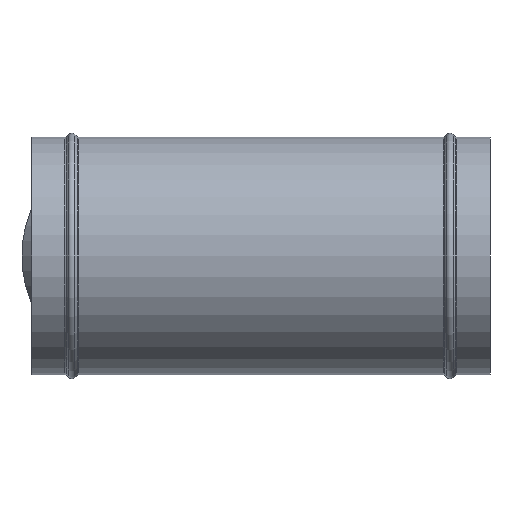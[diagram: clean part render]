
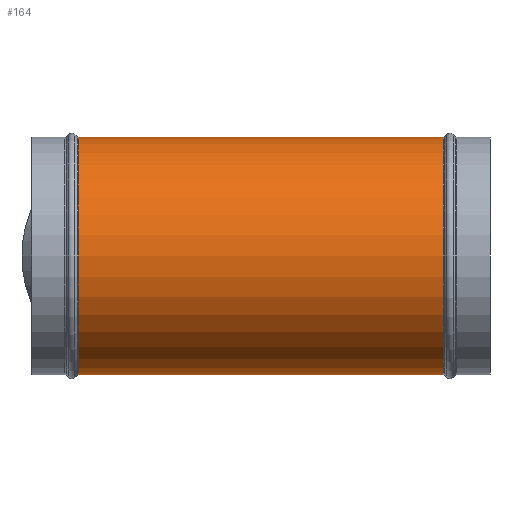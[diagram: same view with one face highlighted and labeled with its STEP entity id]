
A CAD part, front view. The second image highlights one B-rep face of the part: STEP entity #164.
In plain terms, the highlighted cylindrical face has radius 102 mm (diameter 204 mm), a full revolution.
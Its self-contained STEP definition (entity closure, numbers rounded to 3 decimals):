
#164=ADVANCED_FACE('',(#254,#255,#256),#180,.T.);
#180=CYLINDRICAL_SURFACE('',#649,102.);
#184=B_SPLINE_CURVE_WITH_KNOTS('',3,(#908,#909,#910,#911,#912,#913,#914,
#915,#916,#917,#918,#919,#920,#921,#922,#923,#924,#925,#926,#927,#928,#929,
#930,#931,#932,#933,#934,#935,#936,#937,#938,#939,#940,#941,#942,#943,#944,
#945,#946,#947,#948,#949,#950,#951,#952,#953,#954,#955,#956,#957,#958,#959,
#960,#961,#962,#963,#964,#965,#966,#967,#968,#969,#970,#971,#972,#973,#974,
#975,#976,#977),.UNSPECIFIED.,.T.,.F.,(2,2,2,2,2,2,2,2,2,2,2,2,2,2,2,2,2,
2,2,2,2,2,2,2,2,2,2,2,2,2,2,2,2,2,2,2,2),(-0.016,0.,0.016,
0.031,0.062,0.094,0.125,0.188,0.25,
0.281,0.313,0.344,0.359,0.375,0.406,0.438,0.469,0.5,0.531,
0.563,0.578,0.594,0.625,0.641,0.656,0.672,0.688,0.719,0.75,
0.813,0.875,0.906,0.938,0.969,0.984,1.,1.016),.UNSPECIFIED.);
#254=FACE_BOUND('',#342,.T.);
#255=FACE_BOUND('',#343,.T.);
#256=FACE_BOUND('',#344,.T.);
#342=EDGE_LOOP('',(#430));
#343=EDGE_LOOP('',(#431));
#344=EDGE_LOOP('',(#432));
#430=ORIENTED_EDGE('',*,*,#495,.T.);
#431=ORIENTED_EDGE('',*,*,#528,.T.);
#432=ORIENTED_EDGE('',*,*,#529,.F.);
#451=VERTEX_POINT('',#978);
#484=VERTEX_POINT('',#1076);
#485=VERTEX_POINT('',#1079);
#495=EDGE_CURVE('',#451,#451,#184,.T.);
#528=EDGE_CURVE('',#484,#484,#570,.T.);
#529=EDGE_CURVE('',#485,#485,#571,.T.);
#570=CIRCLE('',#646,102.);
#571=CIRCLE('',#648,102.);
#646=AXIS2_PLACEMENT_3D('',#1075,#799,#800);
#648=AXIS2_PLACEMENT_3D('',#1078,#803,#804);
#649=AXIS2_PLACEMENT_3D('',#1080,#805,#806);
#799=DIRECTION('',(1.,0.,0.));
#800=DIRECTION('',(0.,0.,-1.));
#803=DIRECTION('',(1.,0.,0.));
#804=DIRECTION('',(0.,0.,-1.));
#805=DIRECTION('',(1.,0.,0.));
#806=DIRECTION('',(0.,0.,-1.));
#908=CARTESIAN_POINT('',(-291.687,102.,3.243));
#909=CARTESIAN_POINT('',(-291.687,102.,-3.243));
#910=CARTESIAN_POINT('',(-291.244,101.846,-6.4));
#911=CARTESIAN_POINT('',(-289.579,101.271,-12.565));
#912=CARTESIAN_POINT('',(-288.353,100.847,-15.551));
#913=CARTESIAN_POINT('',(-283.919,99.324,-23.89));
#914=CARTESIAN_POINT('',(-279.884,97.946,-28.834));
#915=CARTESIAN_POINT('',(-271.035,94.976,-37.477));
#916=CARTESIAN_POINT('',(-266.117,93.347,-41.289));
#917=CARTESIAN_POINT('',(-255.848,90.022,-48.109));
#918=CARTESIAN_POINT('',(-250.519,88.332,-51.103));
#919=CARTESIAN_POINT('',(-234.106,83.288,-59.227));
#920=CARTESIAN_POINT('',(-222.53,79.927,-63.534));
#921=CARTESIAN_POINT('',(-198.812,73.914,-70.439));
#922=CARTESIAN_POINT('',(-186.715,71.24,-73.04));
#923=CARTESIAN_POINT('',(-168.023,68.555,-75.536));
#924=CARTESIAN_POINT('',(-161.652,67.886,-76.129));
#925=CARTESIAN_POINT('',(-148.907,67.329,-76.622));
#926=CARTESIAN_POINT('',(-142.514,67.439,-76.53));
#927=CARTESIAN_POINT('',(-129.814,68.833,-75.279));
#928=CARTESIAN_POINT('',(-123.722,70.105,-74.138));
#929=CARTESIAN_POINT('',(-115.066,72.942,-71.311));
#930=CARTESIAN_POINT('',(-112.236,74.054,-70.165));
#931=CARTESIAN_POINT('',(-106.942,76.47,-67.524));
#932=CARTESIAN_POINT('',(-104.463,77.775,-66.028));
#933=CARTESIAN_POINT('',(-97.482,81.869,-60.994));
#934=CARTESIAN_POINT('',(-93.419,84.855,-56.859));
#935=CARTESIAN_POINT('',(-86.68,90.396,-47.559));
#936=CARTESIAN_POINT('',(-83.911,93.013,-42.289));
#937=CARTESIAN_POINT('',(-79.581,97.321,-31.12));
#938=CARTESIAN_POINT('',(-77.968,99.063,-25.104));
#939=CARTESIAN_POINT('',(-75.838,101.398,-12.729));
#940=CARTESIAN_POINT('',(-75.313,101.999,-6.429));
#941=CARTESIAN_POINT('',(-75.312,102.001,6.402));
#942=CARTESIAN_POINT('',(-75.842,101.393,12.759));
#943=CARTESIAN_POINT('',(-77.964,99.067,25.08));
#944=CARTESIAN_POINT('',(-79.585,97.316,31.131));
#945=CARTESIAN_POINT('',(-82.825,94.093,39.489));
#946=CARTESIAN_POINT('',(-84.043,92.917,42.175));
#947=CARTESIAN_POINT('',(-86.793,90.393,47.344));
#948=CARTESIAN_POINT('',(-88.339,89.033,49.844));
#949=CARTESIAN_POINT('',(-93.398,84.871,56.836));
#950=CARTESIAN_POINT('',(-97.331,81.968,60.864));
#951=CARTESIAN_POINT('',(-104.358,77.832,65.962));
#952=CARTESIAN_POINT('',(-106.884,76.5,67.49));
#953=CARTESIAN_POINT('',(-112.144,74.093,70.125));
#954=CARTESIAN_POINT('',(-114.901,73.003,71.248));
#955=CARTESIAN_POINT('',(-120.67,71.099,73.149));
#956=CARTESIAN_POINT('',(-123.71,70.279,73.93));
#957=CARTESIAN_POINT('',(-129.861,68.976,75.147));
#958=CARTESIAN_POINT('',(-132.974,68.487,75.589));
#959=CARTESIAN_POINT('',(-142.409,67.448,76.522));
#960=CARTESIAN_POINT('',(-148.882,67.33,76.621));
#961=CARTESIAN_POINT('',(-161.603,67.882,76.132));
#962=CARTESIAN_POINT('',(-167.885,68.539,75.551));
#963=CARTESIAN_POINT('',(-186.576,71.213,73.066));
#964=CARTESIAN_POINT('',(-198.871,73.929,70.421));
#965=CARTESIAN_POINT('',(-222.45,79.907,63.558));
#966=CARTESIAN_POINT('',(-233.847,83.212,59.331));
#967=CARTESIAN_POINT('',(-250.25,88.248,51.248));
#968=CARTESIAN_POINT('',(-255.601,89.943,48.258));
#969=CARTESIAN_POINT('',(-265.969,93.298,41.401));
#970=CARTESIAN_POINT('',(-270.882,94.925,37.612));
#971=CARTESIAN_POINT('',(-279.856,97.937,28.875));
#972=CARTESIAN_POINT('',(-283.82,99.29,24.04));
#973=CARTESIAN_POINT('',(-288.315,100.834,15.639));
#974=CARTESIAN_POINT('',(-289.547,101.259,12.654));
#975=CARTESIAN_POINT('',(-291.227,101.84,6.492));
#976=CARTESIAN_POINT('',(-291.687,102.,3.243));
#977=CARTESIAN_POINT('',(-291.687,102.,-3.243));
#978=CARTESIAN_POINT('',(-291.687,102.,0.));
#1075=CARTESIAN_POINT('',(-353.722,0.,0.));
#1076=CARTESIAN_POINT('',(-353.722,0.,-102.));
#1078=CARTESIAN_POINT('',(-40.278,0.,0.));
#1079=CARTESIAN_POINT('',(-40.278,0.,-102.));
#1080=CARTESIAN_POINT('',(-394.,0.,0.));
